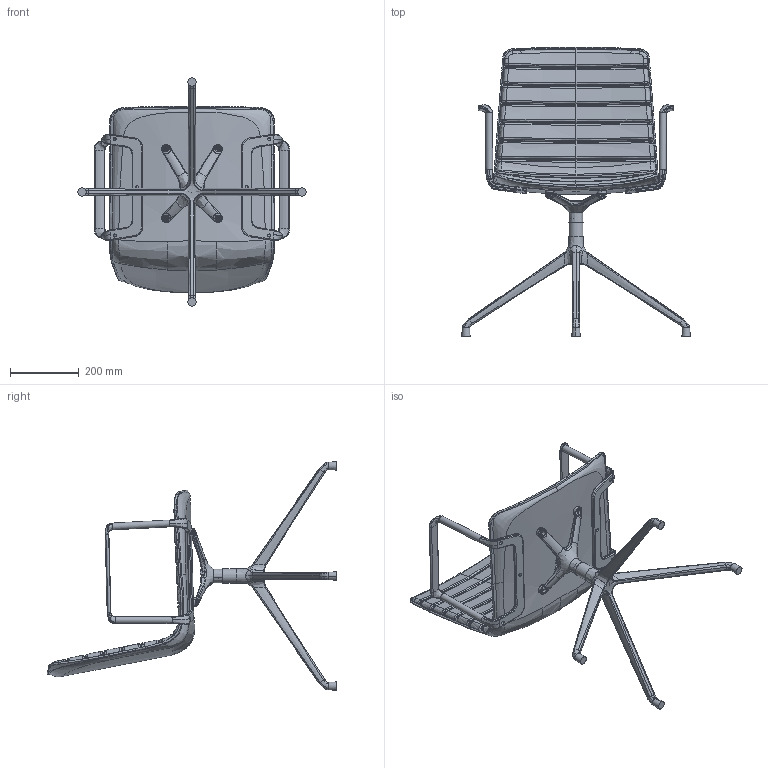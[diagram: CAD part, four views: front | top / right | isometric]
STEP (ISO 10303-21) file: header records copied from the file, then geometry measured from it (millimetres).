
FILE_DESCRIPTION(/* description */ (''),/* implementation_level */ '2;1');
FILE_NAME(/* name */ '23-7-3-2.stp',/* time_stamp */ '2023-07-20T10:09:26+08:00',/* author */ (''),/* organization */ (''),/* preprocessor_version */ 'ST-DEVELOPER v16.7',/* originating_system */ 'SIEMENS PLM Software NX 12.0',/* authorisation */ '');
FILE_SCHEMA (('AUTOMOTIVE_DESIGN { 1 0 10303 214 3 1 1 1 }'));
Products named in the file (1): Admi1898E6232mq1
Bounding box: 662.98 x 840.81 x 662.98 mm (x, y, z)
Volume: 13274848.9 mm3; surface area: 1202586.8 mm2
Topology: 6 solids, 6 shells, 1179 faces, 2968 edges, 1782 vertices
Faces by surface type: bspline 883, cylinder 127, plane 125, cone 14, revolution 14, torus 12, sphere 2, extrusion 2
Full cylindrical faces by diameter (mm): 5 x4, 9 x6, 19.8 x4, 28 x1, 34 x1, 41.84 x1
Entity records: 223520 total; most frequent: CARTESIAN_POINT 201963, ORIENTED_EDGE 5822, EDGE_CURVE 2911, B_SPLINE_CURVE_WITH_KNOTS 2043, VERTEX_POINT 1773, DIRECTION 1450, EDGE_LOOP 1233, ADVANCED_FACE 1179
